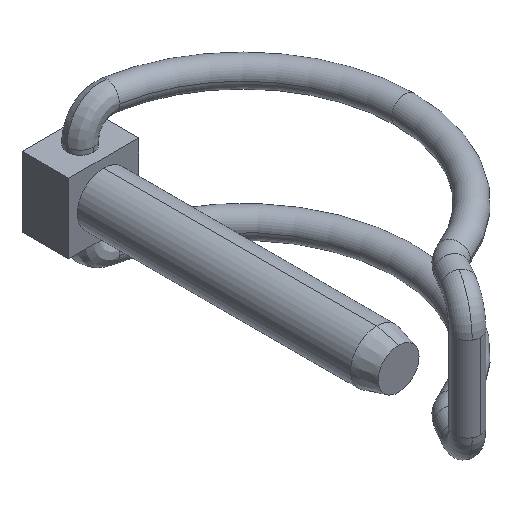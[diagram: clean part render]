
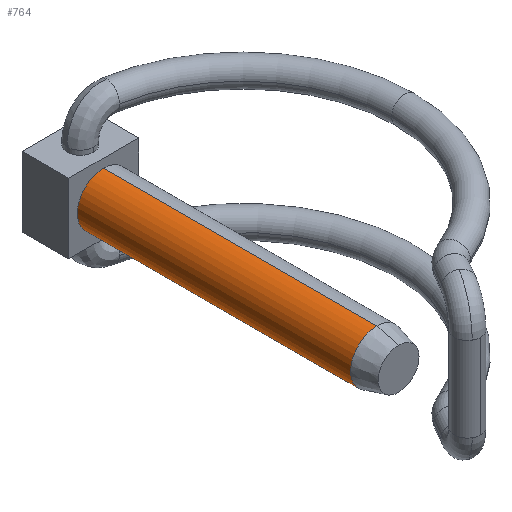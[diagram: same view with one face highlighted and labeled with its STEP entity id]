
A CAD part, isometric view. The second image highlights one B-rep face of the part: STEP entity #764.
In plain terms, the highlighted cylindrical face has radius 4 mm (diameter 8 mm), a partial arc.
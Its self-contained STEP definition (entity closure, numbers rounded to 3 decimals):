
#44 = CARTESIAN_POINT ( 'NONE',  ( 0., -45., -4. ) ) ;
#47 = EDGE_CURVE ( 'NONE', #165, #246, #648, .T. ) ;
#154 = ORIENTED_EDGE ( 'NONE', *, *, #774, .T. ) ;
#165 = VERTEX_POINT ( 'NONE', #1058 ) ;
#166 = EDGE_CURVE ( 'NONE', #1713, #246, #257, .T. ) ;
#171 = DIRECTION ( 'NONE',  ( 0., 0., 1. ) ) ;
#182 = EDGE_LOOP ( 'NONE', ( #1503, #154, #1727, #565 ) ) ;
#236 = CARTESIAN_POINT ( 'NONE',  ( 0., -41.683, 0. ) ) ;
#246 = VERTEX_POINT ( 'NONE', #616 ) ;
#257 = CIRCLE ( 'NONE', #1315, 4. ) ;
#307 = AXIS2_PLACEMENT_3D ( 'NONE', #236, #1638, #321 ) ;
#321 = DIRECTION ( 'NONE',  ( 0., 0., 1. ) ) ;
#337 = DIRECTION ( 'NONE',  ( 0., 1., 0. ) ) ;
#441 = CARTESIAN_POINT ( 'NONE',  ( 0., 0., -4. ) ) ;
#565 = ORIENTED_EDGE ( 'NONE', *, *, #166, .F. ) ;
#616 = CARTESIAN_POINT ( 'NONE',  ( 0., 0., 4. ) ) ;
#648 = LINE ( 'NONE', #1225, #704 ) ;
#704 = VECTOR ( 'NONE', #1799, 1000. ) ;
#748 = CARTESIAN_POINT ( 'NONE',  ( 0., -41.683, -4. ) ) ;
#764 = ADVANCED_FACE ( 'NONE', ( #1005 ), #1444, .T. ) ;
#774 = EDGE_CURVE ( 'NONE', #850, #165, #1330, .T. ) ;
#850 = VERTEX_POINT ( 'NONE', #748 ) ;
#948 = DIRECTION ( 'NONE',  ( 0., 1., 0. ) ) ;
#964 = VECTOR ( 'NONE', #337, 1000. ) ;
#1005 = FACE_OUTER_BOUND ( 'NONE', #182, .T. ) ;
#1058 = CARTESIAN_POINT ( 'NONE',  ( 0., -41.683, 4. ) ) ;
#1225 = CARTESIAN_POINT ( 'NONE',  ( 0., -45., 4. ) ) ;
#1276 = EDGE_CURVE ( 'NONE', #850, #1713, #1622, .T. ) ;
#1302 = CARTESIAN_POINT ( 'NONE',  ( 0., -45., 0. ) ) ;
#1304 = AXIS2_PLACEMENT_3D ( 'NONE', #1302, #948, #1529 ) ;
#1315 = AXIS2_PLACEMENT_3D ( 'NONE', #1337, #1635, #171 ) ;
#1330 = CIRCLE ( 'NONE', #307, 4. ) ;
#1337 = CARTESIAN_POINT ( 'NONE',  ( 0., 0., 0. ) ) ;
#1444 = CYLINDRICAL_SURFACE ( 'NONE', #1304, 4. ) ;
#1503 = ORIENTED_EDGE ( 'NONE', *, *, #1276, .F. ) ;
#1529 = DIRECTION ( 'NONE',  ( 0., 0., 1. ) ) ;
#1622 = LINE ( 'NONE', #44, #964 ) ;
#1635 = DIRECTION ( 'NONE',  ( 0., 1., 0. ) ) ;
#1638 = DIRECTION ( 'NONE',  ( 0., 1., 0. ) ) ;
#1713 = VERTEX_POINT ( 'NONE', #441 ) ;
#1727 = ORIENTED_EDGE ( 'NONE', *, *, #47, .T. ) ;
#1799 = DIRECTION ( 'NONE',  ( 0., 1., 0. ) ) ;
